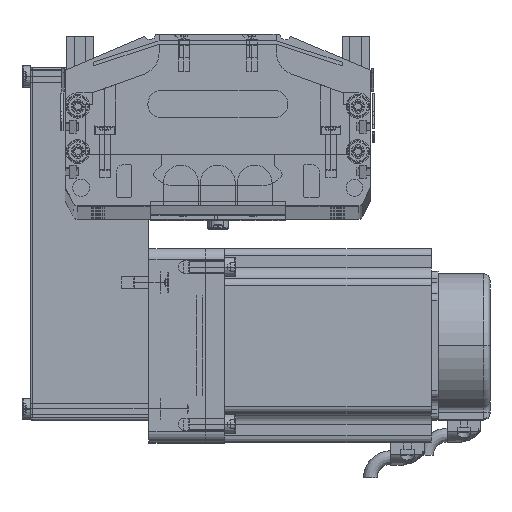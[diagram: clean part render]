
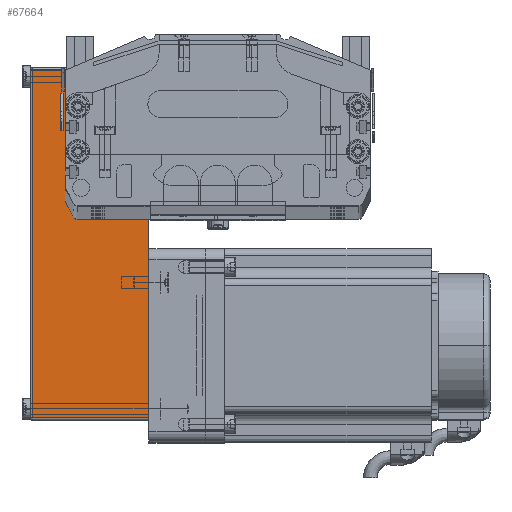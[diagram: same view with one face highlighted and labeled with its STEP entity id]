
A CAD part, top view. The second image highlights one B-rep face of the part: STEP entity #67664.
In plain terms, the highlighted planar face has unit normal (0, 0, 1) as drawn and (0, -1, 0) by its records, which use the part's own axes.
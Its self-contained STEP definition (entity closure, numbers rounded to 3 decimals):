
#33439 = LINE ( 'NONE', #33549, #33547 ) ;
#33546 = DIRECTION ( 'NONE',  ( 0., 0., -1. ) ) ;
#33547 = VECTOR ( 'NONE', #33546, 1000. ) ;
#33549 = CARTESIAN_POINT ( 'NONE',  ( -123.2, -40., 52.5 ) ) ;
#48902 = LINE ( 'NONE', #49403, #49428 ) ;
#49388 = DIRECTION ( 'NONE',  ( 0., 0., 1. ) ) ;
#49403 = CARTESIAN_POINT ( 'NONE',  ( 31., -40., 52.5 ) ) ;
#49428 = VECTOR ( 'NONE', #49388, 1000. ) ;
#57210 = CARTESIAN_POINT ( 'NONE',  ( 32., -40., 52.5 ) ) ;
#57219 = FACE_OUTER_BOUND ( 'NONE', #67708, .T. ) ;
#57226 = PLANE ( 'NONE',  #57246 ) ;
#57238 = DIRECTION ( 'NONE',  ( -1., 0., 0. ) ) ;
#57246 = AXIS2_PLACEMENT_3D ( 'NONE', #57210, #57249, #57238 ) ;
#57249 = DIRECTION ( 'NONE',  ( 0., 1., 0. ) ) ;
#57346 = CARTESIAN_POINT ( 'NONE',  ( 31., -40., 0. ) ) ;
#57371 = CARTESIAN_POINT ( 'NONE',  ( 32., -40., 0. ) ) ;
#57372 = LINE ( 'NONE', #57371, #57385 ) ;
#57385 = VECTOR ( 'NONE', #57470, 1000. ) ;
#57467 = CARTESIAN_POINT ( 'NONE',  ( -123.2, -40., 0. ) ) ;
#57470 = DIRECTION ( 'NONE',  ( 1., 0., 0. ) ) ;
#67500 = ORIENTED_EDGE ( 'NONE', *, *, #67773, .T. ) ;
#67519 = ORIENTED_EDGE ( 'NONE', *, *, #80308, .T. ) ;
#67664 = ADVANCED_FACE ( 'NONE', ( #57219 ), #57226, .F. ) ;
#67672 = VERTEX_POINT ( 'NONE', #57346 ) ;
#67708 = EDGE_LOOP ( 'NONE', ( #67500, #67861, #67519, #77284 ) ) ;
#67773 = EDGE_CURVE ( 'NONE', #67778, #67672, #57372, .T. ) ;
#67778 = VERTEX_POINT ( 'NONE', #57467 ) ;
#67850 = EDGE_CURVE ( 'NONE', #67672, #67851, #48902, .T. ) ;
#67851 = VERTEX_POINT ( 'NONE', #70139 ) ;
#67861 = ORIENTED_EDGE ( 'NONE', *, *, #67850, .T. ) ;
#70139 = CARTESIAN_POINT ( 'NONE',  ( 31., -40., 51.5 ) ) ;
#77268 = EDGE_CURVE ( 'NONE', #80225, #67778, #33439, .T. ) ;
#77284 = ORIENTED_EDGE ( 'NONE', *, *, #77268, .T. ) ;
#80225 = VERTEX_POINT ( 'NONE', #82933 ) ;
#80308 = EDGE_CURVE ( 'NONE', #67851, #80225, #83090, .T. ) ;
#82933 = CARTESIAN_POINT ( 'NONE',  ( -123.2, -40., 51.5 ) ) ;
#83077 = VECTOR ( 'NONE', #83086, 1000. ) ;
#83086 = DIRECTION ( 'NONE',  ( -1., 0., 0. ) ) ;
#83087 = CARTESIAN_POINT ( 'NONE',  ( 32., -40., 51.5 ) ) ;
#83090 = LINE ( 'NONE', #83087, #83077 ) ;
